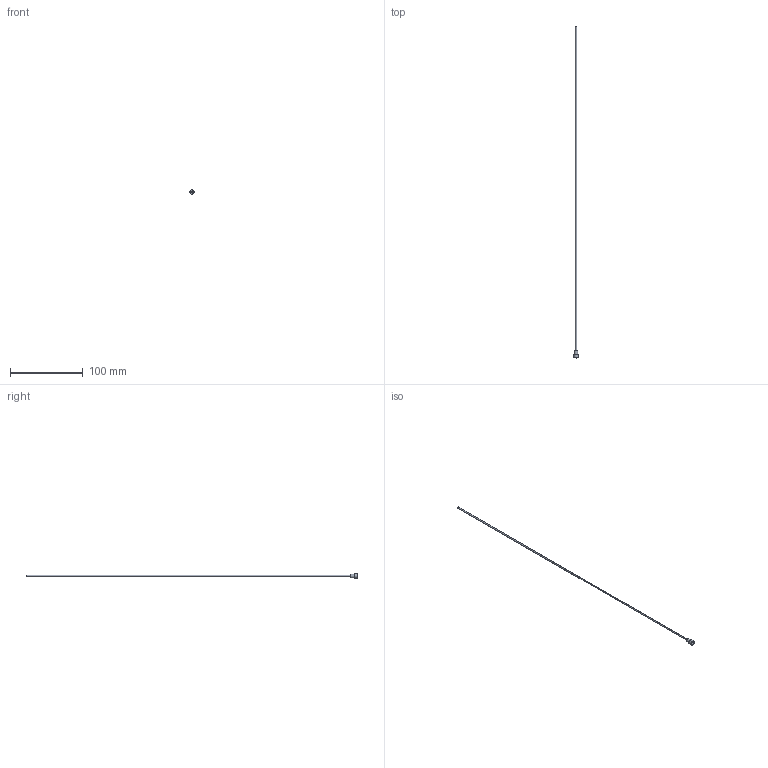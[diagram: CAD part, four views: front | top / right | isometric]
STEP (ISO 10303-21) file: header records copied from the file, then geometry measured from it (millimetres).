
FILE_DESCRIPTION(/* description */ (''),/* implementation_level */ '2;1');
FILE_NAME(/* name */ 'C:/Users/drich/Desktop/JR072T-18 v1.step',/* time_stamp */ '2019-12-30T12:58:14-06:00',/* author */ (''),/* organization */ (''),/* preprocessor_version */ 'ST-DEVELOPER v18',/* originating_system */ 'Autodesk Translation Framework v8.12.0.6',/* authorisation */ '');
FILE_SCHEMA (('AUTOMOTIVE_DESIGN { 1 0 10303 214 3 1 1 }'));
Length unit declared in the file: inch
Products named in the file (1): JR072T-18
Bounding box: 6.22 x 457.2 x 6.22 mm (x, y, z)
Volume: 555.9 mm3; surface area: 5002 mm2
Topology: 1 solids, 1 shells, 19 faces, 47 edges, 33 vertices
Faces by surface type: plane 11, cylinder 4, torus 3, cone 1
Full cylindrical faces by diameter (mm): 1.524 x1, 1.829 x1, 4.727 x1, 6.223 x1
Entity records: 624 total; most frequent: DIRECTION 111, CARTESIAN_POINT 100, ORIENTED_EDGE 94, EDGE_CURVE 47, AXIS2_PLACEMENT_3D 44, VERTEX_POINT 33, EDGE_LOOP 24, CIRCLE 24
